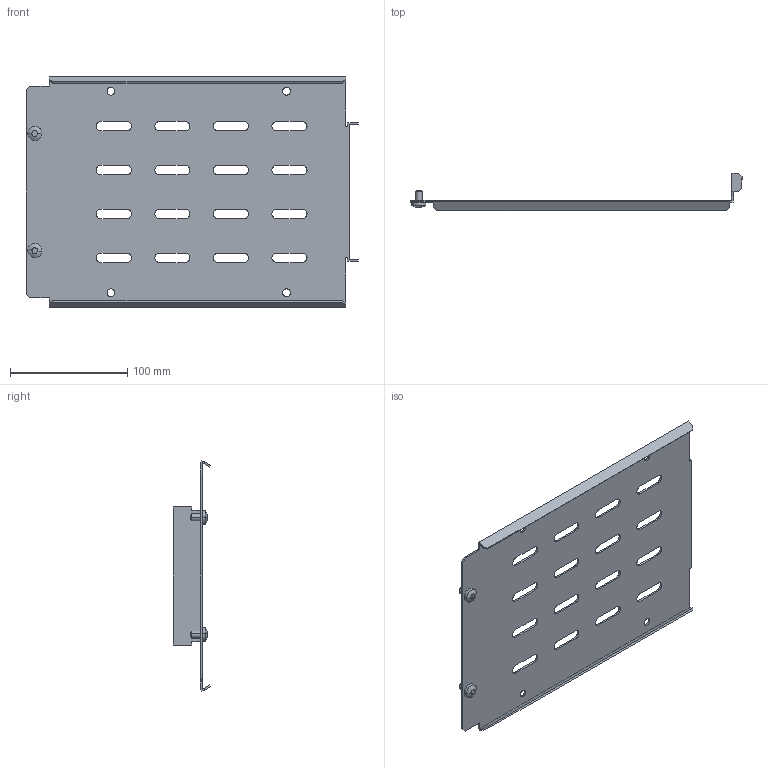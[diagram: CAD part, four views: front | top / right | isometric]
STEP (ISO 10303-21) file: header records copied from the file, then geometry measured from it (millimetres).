
FILE_DESCRIPTION (( 'STEP AP214' ), '1' );
FILE_NAME ('FO-00-SWFÑ-020 Ïåðåãîðîäêà ñåêöèîíèðîâàíèÿ çàäíÿÿ äëÿ âåðòèêàëüíîãî êàáåëüíîãî îòñåêà âûñîòà 200 ìì â øêàô øèðèíîé 600 ìì.STEP', '2025-08-13T12:22:18', ( '' ), ( '' ), 'SwSTEP 2.0', 'SolidWorks 2023', '' );
FILE_SCHEMA (( 'AUTOMOTIVE_DESIGN' ));
Length unit declared in the file: millimetre
Products named in the file (1): FO-00-SWFС-020 Перегородка секционирования задняя для вертикального кабельного отсека высота 200 мм в шкаф шириной 600 мм
Bounding box: 283.5 x 31.66 x 197.2 mm (x, y, z)
Volume: 86145.6 mm3; surface area: 117395.5 mm2
Topology: 1 solids, 1 shells, 190 faces, 540 edges, 356 vertices
Faces by surface type: plane 96, cylinder 82, torus 4, cone 4, sphere 4
Entity records: 6347 total; most frequent: CARTESIAN_POINT 1221, ORIENTED_EDGE 1080, DIRECTION 1038, EDGE_CURVE 540, VERTEX_POINT 356, LINE 356, VECTOR 356, AXIS2_PLACEMENT_3D 341
